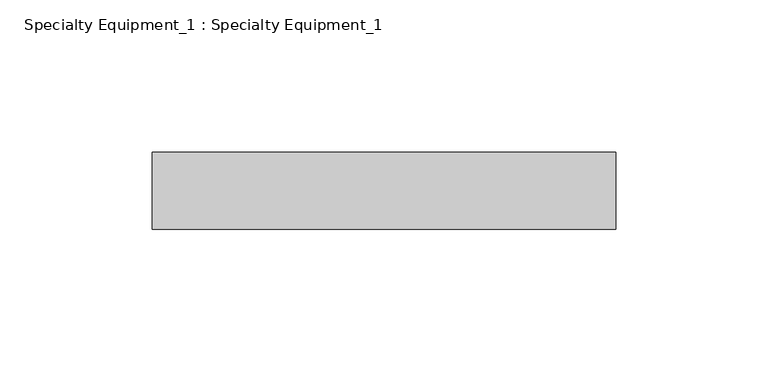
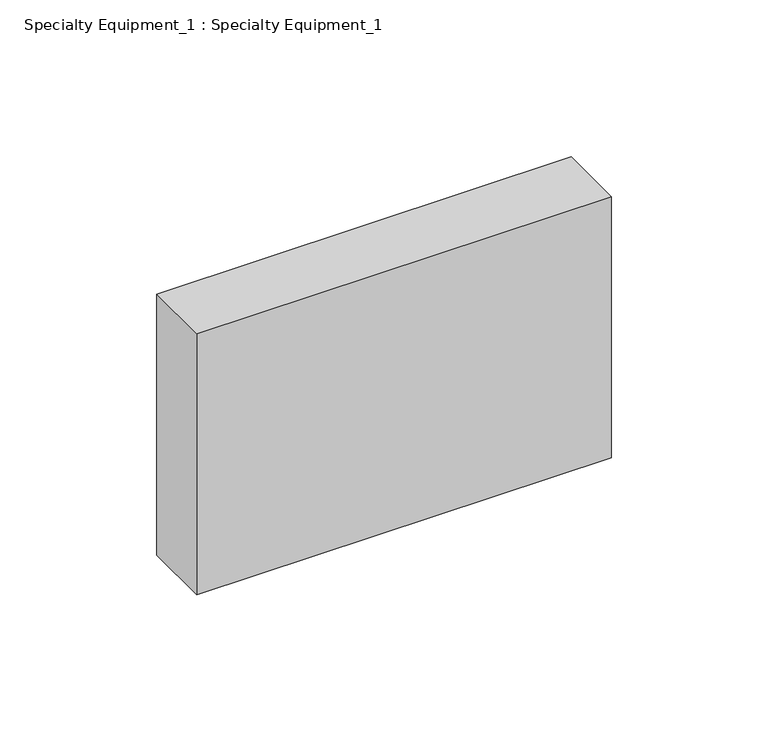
"""IFC4 building model written with IfcOpenShell, lengths in millimetres: proxy geometry, Specialty Equipment_1 : Specialty Equipment_1."""

import ifcopenshell
import ifcopenshell.guid

model = None  # the IFC model being written
_history = None  # IfcOwnerHistory: only IFC2X3 demands one
_inside = {}  # id of a spatial element -> (the spatial element, [elements in it])
_under = {}  # id of a project, library or spatial element -> (it, [spatial elements below it])
_declared = {}  # id of a project -> (the project, [libraries it declares])
_typed = {}  # id of a type object -> (the type object, [elements of that type])
_made_of = {}  # id of a material, layer set ... -> (it, [elements and type objects made of it])


def new_model(schema):
    """Start an empty IFC model of exactly this schema.

    Asked for "IFC4X3", IfcOpenShell would pick the latest addendum, in which some entities
    have other attributes; the version numbers below select the first issue.
    IFC2X3 requires an IfcOwnerHistory on every rooted entity: one is made here for all.
    """
    global model, _history
    if schema == "IFC4X3":
        model = ifcopenshell.file(schema_version=(4, 3, 0, 0))
    else:
        model = ifcopenshell.file(schema=schema)
    _inside.clear()
    _under.clear()
    _declared.clear()
    _typed.clear()
    _made_of.clear()
    _history = None
    if model.schema == "IFC2X3":
        org = make("IfcOrganization", Name="unknown")
        user = make(
            "IfcPersonAndOrganization",
            ThePerson=make("IfcPerson", FamilyName="unknown"),
            TheOrganization=org,
        )
        app = make(
            "IfcApplication",
            ApplicationDeveloper=org,
            Version="unknown",
            ApplicationFullName="unknown",
            ApplicationIdentifier="unknown",
        )
        _history = make(
            "IfcOwnerHistory",
            OwningUser=user,
            OwningApplication=app,
            ChangeAction="ADDED",
            CreationDate=0,
        )
    return model


def make(cls, **values):
    """One entity of the class cls with the attributes given. An attribute that is None is left unset."""
    return model.create_entity(
        cls, **{name: value for name, value in values.items() if value is not None}
    )


def rooted(cls, **values):
    """An entity with a GlobalId (a new one), such as an element, a storey or a relation."""
    return make(cls, GlobalId=ifcopenshell.guid.new(), OwnerHistory=_history, **values)


def si_unit(unit_type, name, prefix=None):
    """IfcSIUnit, for example si_unit("LENGTHUNIT", "METRE", prefix="MILLI")."""
    return make("IfcSIUnit", UnitType=unit_type, Prefix=prefix, Name=name)


def assignment(units):
    """IfcUnitAssignment: the units of a project."""
    return None if units is None else make("IfcUnitAssignment", Units=units)


def point(xyz):
    """IfcCartesianPoint."""
    return None if xyz is None else make("IfcCartesianPoint", Coordinates=xyz)


def direction(xyz):
    """IfcDirection."""
    return None if xyz is None else make("IfcDirection", DirectionRatios=xyz)


def frame(location, z_axis=None, x_axis=None):
    """IfcAxis2Placement3D, a coordinate frame: its origin and axes. An axis left out is left unset."""
    return make(
        "IfcAxis2Placement3D",
        Location=point(location),
        Axis=direction(z_axis),
        RefDirection=direction(x_axis),
    )


def origin():
    """The frame at (0, 0, 0) with its axes left unset."""
    return frame((0.0, 0.0, 0.0))


def origin_with_axes():
    """The frame at (0, 0, 0) with the z axis (0, 0, 1) and the x axis (1, 0, 0) written out."""
    return frame((0.0, 0.0, 0.0), z_axis=(0.0, 0.0, 1.0), x_axis=(1.0, 0.0, 0.0))


def place(relative_to, where):
    """IfcLocalPlacement: puts the frame where relative to a parent placement (None: the world)."""
    return make(
        "IfcLocalPlacement", PlacementRelTo=relative_to, RelativePlacement=where
    )


def context(
    kind, dimensions, precision=None, world=None, true_north=None, identifier=None
):
    """IfcGeometricRepresentationContext, for example the 3D "Model" context."""
    return make(
        "IfcGeometricRepresentationContext",
        ContextIdentifier=identifier,
        ContextType=kind,
        CoordinateSpaceDimension=dimensions,
        Precision=precision,
        WorldCoordinateSystem=world,
        TrueNorth=true_north,
    )


def project(units=None, contexts=None):
    """IfcProject with its units and contexts."""
    return rooted(
        "IfcProject",
        Name="project",
        RepresentationContexts=contexts,
        UnitsInContext=assignment(units),
    )


def spatial(cls, under=None, at=None, **own):
    """A site, building, storey or space (cls), placed at a placement, below another one or the project."""
    s = rooted(cls, ObjectPlacement=at, **own)
    if under is not None:
        _under.setdefault(under.id(), (under, []))[1].append(s)
    return s


def polyline(points):
    """IfcPolyline through the points."""
    return make("IfcPolyline", Points=[point(p) for p in points])


def outline(outer, holes=None, kind="AREA"):
    """IfcArbitraryClosedProfileDef: a profile drawn as a closed curve; with holes, ...WithVoids."""
    if holes is None:
        return make("IfcArbitraryClosedProfileDef", ProfileType=kind, OuterCurve=outer)
    return make(
        "IfcArbitraryProfileDefWithVoids",
        ProfileType=kind,
        OuterCurve=outer,
        InnerCurves=holes,
    )


def extrude(swept, where, along, depth):
    """IfcExtrudedAreaSolid: the profile swept, set in the frame where, extruded along a direction by depth."""
    return make(
        "IfcExtrudedAreaSolid",
        SweptArea=swept,
        Position=where,
        ExtrudedDirection=direction(along),
        Depth=depth,
    )


def shape(context_of_items, identifier, shape_type, items):
    """IfcShapeRepresentation: the items that make up one representation, for example the "Body"."""
    return make(
        "IfcShapeRepresentation",
        ContextOfItems=context_of_items,
        RepresentationIdentifier=identifier,
        RepresentationType=shape_type,
        Items=items,
    )


def source(mapping_origin, context_of_items, identifier, shape_type, items):
    """IfcRepresentationMap: a shape defined once, which mapped items show again and again."""
    return make(
        "IfcRepresentationMap",
        MappingOrigin=mapping_origin,
        MappedRepresentation=shape(context_of_items, identifier, shape_type, items),
    )


def transform(
    local_origin,
    x_axis=None,
    y_axis=None,
    z_axis=None,
    scale=None,
    scale2=None,
    scale3=None,
    uniform=True,
):
    """IfcCartesianTransformationOperator3D, or its non-uniform kind. x_axis, y_axis, z_axis: its Axis1, 2, 3."""
    if uniform:
        return make(
            "IfcCartesianTransformationOperator3D",
            Axis1=direction(x_axis),
            Axis2=direction(y_axis),
            LocalOrigin=point(local_origin),
            Scale=scale,
            Axis3=direction(z_axis),
        )
    return make(
        "IfcCartesianTransformationOperator3DnonUniform",
        Axis1=direction(x_axis),
        Axis2=direction(y_axis),
        LocalOrigin=point(local_origin),
        Scale=scale,
        Axis3=direction(z_axis),
        Scale2=scale2,
        Scale3=scale3,
    )


def mapped(mapping_source, mapping_target):
    """IfcMappedItem: shows the shape of a source again, moved by a transform."""
    return make(
        "IfcMappedItem", MappingSource=mapping_source, MappingTarget=mapping_target
    )


def made_of(thing, what):
    """Note that an element or type object is made of a material, layer set ...; save() writes the relation."""
    if what is not None:
        _made_of.setdefault(what.id(), (what, []))[1].append(thing)
    return thing


def element(
    cls,
    number,
    at=None,
    inside=None,
    cuts=None,
    type_object=None,
    material=None,
    context=None,
    identifier="Body",
    shape_type=None,
    held_by="IfcProductDefinitionShape",
    body=None,
    shapes=None,
    **own,
):
    """One element of the class cls, such as IfcWall. Its Tag is "e" and its number.

    at: its placement. inside: the storey or other place that contains it. cuts: it is an
    opening in that element (IfcRelVoidsElement). A single representation is given by context,
    identifier, shape_type and body (its items); several are given by shapes. held_by: the class
    of the entity that holds the representations. save() writes the other relations.
    """
    e = rooted(cls, Tag="e%d" % number, ObjectPlacement=at, **own)
    if body is not None:
        shapes = [shape(context, identifier, shape_type, body)]
    if shapes is not None:
        e.Representation = make(held_by, Representations=shapes)
    if inside is not None:
        _inside.setdefault(inside.id(), (inside, []))[1].append(e)
    if cuts is not None:
        rooted(
            "IfcRelVoidsElement", RelatingBuildingElement=cuts, RelatedOpeningElement=e
        )
    if type_object is not None:
        _typed.setdefault(type_object.id(), (type_object, []))[1].append(e)
    return made_of(e, material)


def aggregate(whole, parts):
    """IfcRelAggregates: a whole, such as a stair, and the parts it consists of."""
    return rooted("IfcRelAggregates", RelatingObject=whole, RelatedObjects=parts)


def save(model, path):
    """Write the relations noted so far, then the file.

    IfcRelAggregates (storeys below a building ...), IfcRelContainedInSpatialStructure (elements
    in a storey), IfcRelDefinesByType, IfcRelAssociatesMaterial and IfcRelDeclares: one each for
    every whole, place, type object, material and project.
    """
    for whole, parts in _under.values():
        aggregate(whole, parts)
    for where, things in _inside.values():
        rooted(
            "IfcRelContainedInSpatialStructure",
            RelatedElements=things,
            RelatingStructure=where,
        )
    for kind, things in _typed.values():
        rooted("IfcRelDefinesByType", RelatedObjects=things, RelatingType=kind)
    for what, things in _made_of.values():
        rooted("IfcRelAssociatesMaterial", RelatedObjects=things, RelatingMaterial=what)
    for by, libraries in _declared.values():
        rooted("IfcRelDeclares", RelatingContext=by, RelatedDefinitions=libraries)
    model.write(path)


def specialty_equipment_1_specialty_equipment_1_b0d764d4(model_context):
    return source(origin(), model_context, "Body", "SweptSolid", [
        extrude(outline(polyline([(76.2, 0.0), (76.2, -25.4), (-76.2, -25.4), (-76.2, 0.0), (76.2, 0.0)])), origin_with_axes(), (0.0, 0.0, 1.0), 101.6),
    ])


if __name__ == "__main__":
    model = new_model("IFC4")
    model_context = context("Model", 3, world=origin())
    ifc_project = project(units=[si_unit("LENGTHUNIT", "METRE", prefix="MILLI")], contexts=[model_context])
    site = spatial("IfcSite", under=ifc_project)
    building = spatial("IfcBuilding", under=site)
    placement = place(None, origin())
    specialty_equipment_1_specialty_equipment_1_shape = specialty_equipment_1_specialty_equipment_1_b0d764d4(model_context)
    element("IfcBuildingElementProxy", 1, Name="Specialty Equipment_1 : Specialty Equipment_1", ObjectType="Specialty Equipment_1 : Specialty Equipment_1", at=placement, inside=building, context=model_context, shape_type="MappedRepresentation", body=[
        mapped(specialty_equipment_1_specialty_equipment_1_shape, transform((0.0, 0.0, 0.0), x_axis=(1.0, 0.0, 0.0), y_axis=(0.0, 1.0, 0.0), z_axis=(0.0, 0.0, 1.0))),
    ])
    save(model, "model.ifc")
